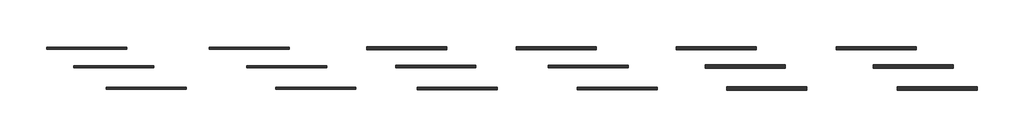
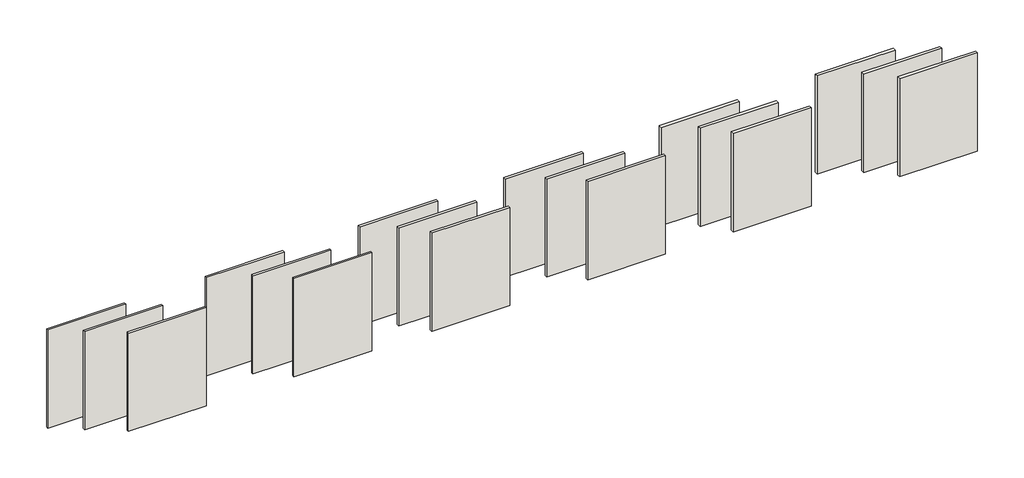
# One storey: 18 walls.
"""IFC4 building model written with IfcOpenShell, lengths in millimetres."""

from ifc_helpers import new_model, si_unit, origin, origin_with_axes, place, context, project, spatial, polyline, outline, extrude, element, save

model = new_model("IFC4")

# Units and contexts
model_context = context("Model", 3, world=origin())
ifc_project = project(units=[si_unit("LENGTHUNIT", "METRE", prefix="MILLI")], contexts=[model_context])

# Site, building, storey
site = spatial("IfcSite", under=ifc_project)
building = spatial("IfcBuilding", under=site)
storey = spatial("IfcBuildingStorey", under=building, Name="Уровень 1", Elevation=0.0)

# Walls
placement = place(None, origin())
element("IfcWall", 1, ObjectType="Облицовка КНАУФ С666 Применение внутри здания ПC50/50 ПН50х40 шаг 300 ГВЛ 12.5", at=placement, inside=storey, context=model_context, shape_type="SweptSolid", body=[
    extrude(outline(polyline([(-14467.9566677, 510.8236717), (-17467.9566677, 510.8236717), (-17467.9566677, 585.8236717), (-14467.9566677, 585.8236717), (-14467.9566677, 510.8236717)])), origin_with_axes(), (0.0, 0.0, 1.0), 4000.0),
])
element("IfcWall", 2, ObjectType="Облицовка КНАУФ С666 Применение внутри здания ПC50/50 ПН50х40 шаг 300 ГВЛВ 12.5", at=placement, inside=storey, context=model_context, shape_type="SweptSolid", body=[
    extrude(outline(polyline([(-13445.9270369, -178.4521259), (-16445.9270369, -178.4521259), (-16445.9270369, -103.4521259), (-13445.9270369, -103.4521259), (-13445.9270369, -178.4521259)])), origin_with_axes(), (0.0, 0.0, 1.0), 4000.0),
])
element("IfcWall", 3, ObjectType="Облицовка КНАУФ С666 Применение внутри здания ПC50/50 ПН50х40 шаг 400 ГВЛ 12.5", at=placement, inside=storey, context=model_context, shape_type="SweptSolid", body=[
    extrude(outline(polyline([(-12233.7523585, -998.4526437), (-15233.7523585, -998.4526437), (-15233.7523585, -923.4526437), (-12233.7523585, -923.4526437), (-12233.7523585, -998.4526437)])), origin_with_axes(), (0.0, 0.0, 1.0), 4000.0),
])
element("IfcWall", 4, ObjectType="Облицовка КНАУФ С666 Применение внутри здания ПC50/50 ПН50х40 шаг 400 ГВЛВ 12.5", at=placement, inside=storey, context=model_context, shape_type="SweptSolid", body=[
    extrude(outline(polyline([(-8367.9566677, 510.8236717), (-11367.9566677, 510.8236717), (-11367.9566677, 585.8236717), (-8367.9566677, 585.8236717), (-8367.9566677, 510.8236717)])), origin_with_axes(), (0.0, 0.0, 1.0), 4000.0),
])
element("IfcWall", 5, ObjectType="Облицовка КНАУФ С666 Применение внутри здания ПC50/50 ПН50х40 шаг 600 ГВЛ 12.5", at=placement, inside=storey, context=model_context, shape_type="SweptSolid", body=[
    extrude(outline(polyline([(-6967.9566677, -178.4521259), (-9967.9566677, -178.4521259), (-9967.9566677, -103.4521259), (-6967.9566677, -103.4521259), (-6967.9566677, -178.4521259)])), origin_with_axes(), (0.0, 0.0, 1.0), 4000.0),
])
element("IfcWall", 6, ObjectType="Облицовка КНАУФ С666 Применение внутри здания ПC50/50 ПН50х40 шаг 600 ГВЛВ 12.5", at=placement, inside=storey, context=model_context, shape_type="SweptSolid", body=[
    extrude(outline(polyline([(-5867.9566677, -998.4526437), (-8867.9566677, -998.4526437), (-8867.9566677, -923.4526437), (-5867.9566677, -923.4526437), (-5867.9566677, -998.4526437)])), origin_with_axes(), (0.0, 0.0, 1.0), 4000.0),
])
element("IfcWall", 7, ObjectType="Облицовка КНАУФ С666 Применение внутри здания ПC75/50 ПН75х40 шаг 300 ГВЛ 12.5", at=placement, inside=storey, context=model_context, shape_type="SweptSolid", body=[
    extrude(outline(polyline([(-2467.9566677, 498.3236717), (-5467.9566677, 498.3236717), (-5467.9566677, 598.3236717), (-2467.9566677, 598.3236717), (-2467.9566677, 498.3236717)])), origin_with_axes(), (0.0, 0.0, 1.0), 4000.0),
])
element("IfcWall", 8, ObjectType="Облицовка КНАУФ С666 Применение внутри здания ПC75/50 ПН75х40 шаг 300 ГВЛВ 12.5", at=placement, inside=storey, context=model_context, shape_type="SweptSolid", body=[
    extrude(outline(polyline([(-1367.9566677, -190.9521259), (-4367.9566677, -190.9521259), (-4367.9566677, -90.9521259), (-1367.9566677, -90.9521259), (-1367.9566677, -190.9521259)])), origin_with_axes(), (0.0, 0.0, 1.0), 4000.0),
])
element("IfcWall", 9, ObjectType="Облицовка КНАУФ С666 Применение внутри здания ПC75/50 ПН75х40 шаг 400 ГВЛ 12.5", at=placement, inside=storey, context=model_context, shape_type="SweptSolid", body=[
    extrude(outline(polyline([(-567.9566677, -1010.9526437), (-3567.9566677, -1010.9526437), (-3567.9566677, -910.9526437), (-567.9566677, -910.9526437), (-567.9566677, -1010.9526437)])), origin_with_axes(), (0.0, 0.0, 1.0), 4000.0),
])
element("IfcWall", 10, ObjectType="Облицовка КНАУФ С666 Применение внутри здания ПC75/50 ПН75х40 шаг 400 ГВЛВ 12.5", at=placement, inside=storey, context=model_context, shape_type="SweptSolid", body=[
    extrude(outline(polyline([(3132.0433323, 498.3236717), (132.0433323, 498.3236717), (132.0433323, 598.3236717), (3132.0433323, 598.3236717), (3132.0433323, 498.3236717)])), origin_with_axes(), (0.0, 0.0, 1.0), 4000.0),
])
element("IfcWall", 11, ObjectType="Облицовка КНАУФ С666 Применение внутри здания ПC75/50 ПН75х40 шаг 600 ГВЛ 12.5", at=placement, inside=storey, context=model_context, shape_type="SweptSolid", body=[
    extrude(outline(polyline([(4332.0433323, -190.9521259), (1332.0433323, -190.9521259), (1332.0433323, -90.9521259), (4332.0433323, -90.9521259), (4332.0433323, -190.9521259)])), origin_with_axes(), (0.0, 0.0, 1.0), 4000.0),
])
element("IfcWall", 12, ObjectType="Облицовка КНАУФ С666 Применение внутри здания ПC75/50 ПН75х40 шаг 600 ГВЛВ 12.5", at=placement, inside=storey, context=model_context, shape_type="SweptSolid", body=[
    extrude(outline(polyline([(5432.0433323, -1010.9526437), (2432.0433323, -1010.9526437), (2432.0433323, -910.9526437), (5432.0433323, -910.9526437), (5432.0433323, -1010.9526437)])), origin_with_axes(), (0.0, 0.0, 1.0), 4000.0),
])
element("IfcWall", 13, ObjectType="Облицовка КНАУФ С666 Применение внутри здания ПC100/50 ПН100х40 шаг 300 ГВЛ 12.5", at=placement, inside=storey, context=model_context, shape_type="SweptSolid", body=[
    extrude(outline(polyline([(9132.0433323, 485.8236717), (6132.0433323, 485.8236717), (6132.0433323, 610.8236717), (9132.0433323, 610.8236717), (9132.0433323, 485.8236717)])), origin_with_axes(), (0.0, 0.0, 1.0), 4000.0),
])
element("IfcWall", 14, ObjectType="Облицовка КНАУФ С666 Применение внутри здания ПC100/50 ПН100х40 шаг 300 ГВЛВ 12.5", at=placement, inside=storey, context=model_context, shape_type="SweptSolid", body=[
    extrude(outline(polyline([(10232.0433323, -203.4521259), (7232.0433323, -203.4521259), (7232.0433323, -78.4521259), (10232.0433323, -78.4521259), (10232.0433323, -203.4521259)])), origin_with_axes(), (0.0, 0.0, 1.0), 4000.0),
])
element("IfcWall", 15, ObjectType="Облицовка КНАУФ С666 Применение внутри здания ПC100/50 ПН100х40 шаг 400 ГВЛ 12.5", at=placement, inside=storey, context=model_context, shape_type="SweptSolid", body=[
    extrude(outline(polyline([(11032.0433323, -1023.4526437), (8032.0433323, -1023.4526437), (8032.0433323, -898.4526437), (11032.0433323, -898.4526437), (11032.0433323, -1023.4526437)])), origin_with_axes(), (0.0, 0.0, 1.0), 4000.0),
])
element("IfcWall", 16, ObjectType="Облицовка КНАУФ С666 Применение внутри здания ПC100/50 ПН100х40 шаг 400 ГВЛВ 12.5", at=placement, inside=storey, context=model_context, shape_type="SweptSolid", body=[
    extrude(outline(polyline([(15132.0433323, 485.8236717), (12132.0433323, 485.8236717), (12132.0433323, 610.8236717), (15132.0433323, 610.8236717), (15132.0433323, 485.8236717)])), origin_with_axes(), (0.0, 0.0, 1.0), 4000.0),
])
element("IfcWall", 17, ObjectType="Облицовка КНАУФ С666 Применение внутри здания ПC100/50 ПН100х40 шаг 600 ГВЛ 12.5", at=placement, inside=storey, context=model_context, shape_type="SweptSolid", body=[
    extrude(outline(polyline([(16532.0433323, -203.4521259), (13532.0433323, -203.4521259), (13532.0433323, -78.4521259), (16532.0433323, -78.4521259), (16532.0433323, -203.4521259)])), origin_with_axes(), (0.0, 0.0, 1.0), 4000.0),
])
element("IfcWall", 18, ObjectType="Облицовка КНАУФ С666 Применение внутри здания ПC100/50 ПН100х40 шаг 600 ГВЛВ 12.5", at=placement, inside=storey, context=model_context, shape_type="SweptSolid", body=[
    extrude(outline(polyline([(17432.0433323, -1023.4526437), (14432.0433323, -1023.4526437), (14432.0433323, -898.4526437), (17432.0433323, -898.4526437), (17432.0433323, -1023.4526437)])), origin_with_axes(), (0.0, 0.0, 1.0), 4000.0),
])

save(model, "model.ifc")
